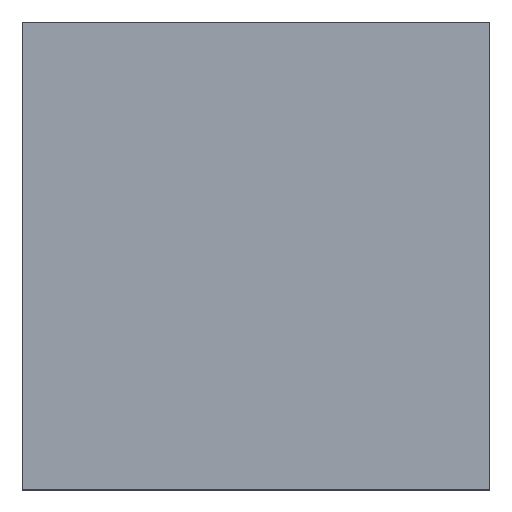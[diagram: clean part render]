
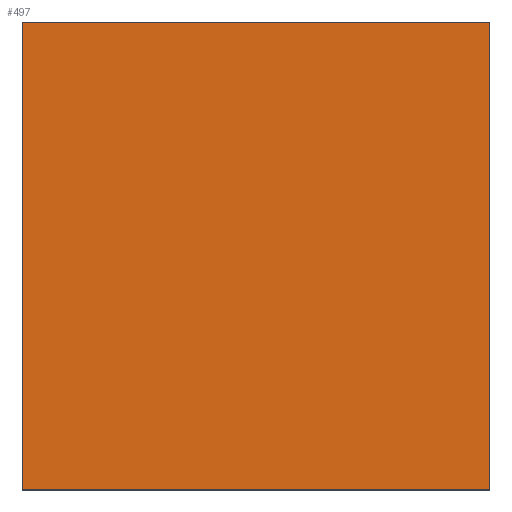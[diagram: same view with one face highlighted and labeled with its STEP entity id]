
A CAD part, top view. The second image highlights one B-rep face of the part: STEP entity #497.
In plain terms, the highlighted planar face has unit normal (0, 0, 1).
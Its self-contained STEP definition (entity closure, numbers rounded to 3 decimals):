
#91=FACE_OUTER_BOUND('',#137,.T.);
#137=EDGE_LOOP('',(#359,#360,#361,#362));
#189=LINE('',#842,#217);
#193=LINE('',#849,#221);
#196=LINE('',#855,#224);
#198=LINE('',#858,#226);
#217=VECTOR('',#654,1000.);
#221=VECTOR('',#660,1000.);
#224=VECTOR('',#665,1000.);
#226=VECTOR('',#669,1000.);
#245=VERTEX_POINT('',#839);
#246=VERTEX_POINT('',#841);
#248=VERTEX_POINT('',#847);
#250=VERTEX_POINT('',#853);
#285=EDGE_CURVE('',#246,#245,#189,.T.);
#289=EDGE_CURVE('',#245,#248,#193,.T.);
#292=EDGE_CURVE('',#248,#250,#196,.T.);
#294=EDGE_CURVE('',#250,#246,#198,.T.);
#359=ORIENTED_EDGE('',*,*,#285,.T.);
#360=ORIENTED_EDGE('',*,*,#289,.T.);
#361=ORIENTED_EDGE('',*,*,#292,.T.);
#362=ORIENTED_EDGE('',*,*,#294,.T.);
#467=PLANE('',#574);
#497=ADVANCED_FACE('',(#91),#467,.T.);
#574=AXIS2_PLACEMENT_3D('',#859,#670,#671);
#654=DIRECTION('',(0.,-1.,0.));
#660=DIRECTION('',(1.,0.,0.));
#665=DIRECTION('',(0.,1.,0.));
#669=DIRECTION('',(-1.,0.,0.));
#670=DIRECTION('center_axis',(0.,0.,1.));
#671=DIRECTION('ref_axis',(1.,0.,0.));
#839=CARTESIAN_POINT('',(-1524.,-1524.,1219.2));
#841=CARTESIAN_POINT('',(-1524.,1524.,1219.2));
#842=CARTESIAN_POINT('',(-1524.,-1524.,1219.2));
#847=CARTESIAN_POINT('',(1524.,-1524.,1219.2));
#849=CARTESIAN_POINT('',(1524.,-1524.,1219.2));
#853=CARTESIAN_POINT('',(1524.,1524.,1219.2));
#855=CARTESIAN_POINT('',(1524.,-1524.,1219.2));
#858=CARTESIAN_POINT('',(1524.,1524.,1219.2));
#859=CARTESIAN_POINT('Origin',(0.,0.,1219.2));
